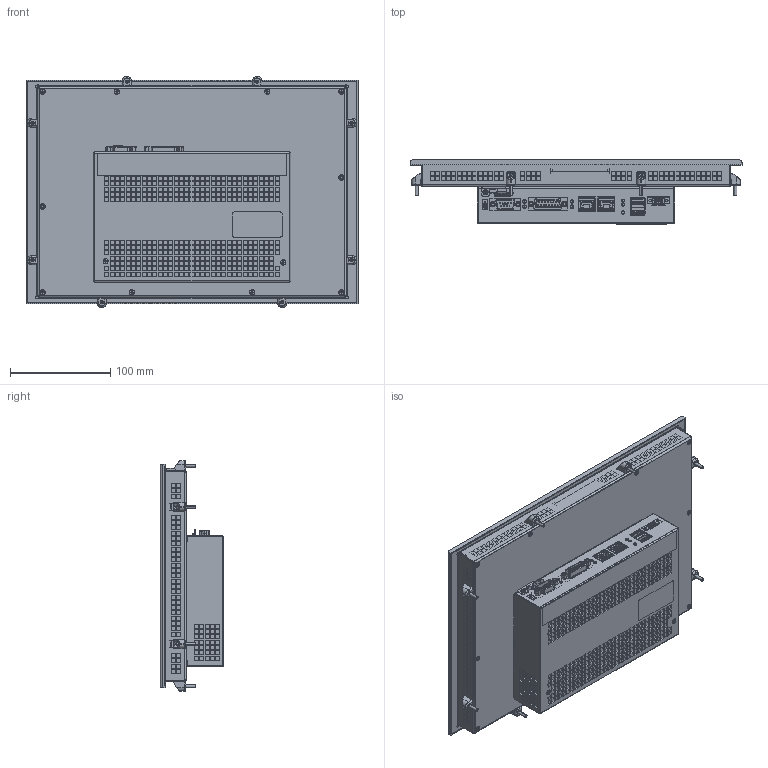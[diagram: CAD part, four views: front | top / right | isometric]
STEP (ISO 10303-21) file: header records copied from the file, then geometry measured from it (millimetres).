
FILE_DESCRIPTION (( 'STEP AP214' ), '1' );
FILE_NAME ('C6S14_121W_CAP_UPS.STEP', '2019-07-29T10:03:26', ( '' ), ( '' ), 'SwSTEP 2.0', 'SolidWorks 2018', '' );
FILE_SCHEMA (( 'AUTOMOTIVE_DESIGN' ));
Length unit declared in the file: millimetre
Products named in the file (5): C6S14_121W_CAP_ASM; C6S14_121W_CAP_UPS_1; C6S14_121W_CAP; DB15_Male_pin; C6S14_121W_CAP_UPS
Assembly tree (4 placements, depth 3):
  C6S14_121W_CAP_UPS
    C6S14_121W_CAP_ASM
    C6S14_121W_CAP
      C6S14_121W_CAP_UPS_1
      DB15_Male_pin
Bounding box: 331 x 63.8 x 230 mm (x, y, z)
Surface area: 517455.9 mm2
Topology: 1 solids, 4742 shells, 5018 faces, 28094 edges, 27819 vertices
Faces by surface type: plane 3846, cylinder 779, cone 206, bspline 125, torus 42, sphere 20
Entity records: 321840 total; most frequent: CARTESIAN_POINT 119753, DIRECTION 33514, ORIENTED_EDGE 28670, EDGE_CURVE 28054, VERTEX_POINT 27802, VECTOR 19892, LINE 19892, AXIS2_PLACEMENT_3D 6811
